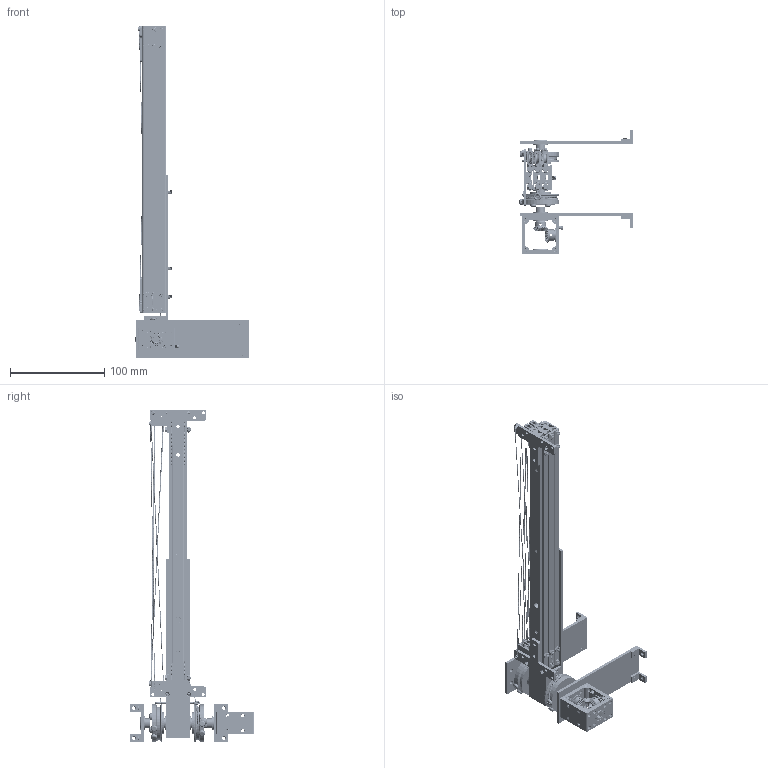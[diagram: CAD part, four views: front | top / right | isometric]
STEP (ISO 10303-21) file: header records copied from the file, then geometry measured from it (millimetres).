
FILE_DESCRIPTION( ('This file contains a STEP AP42 implementation' ,'as created by ZW3D STEP Interface translator.') ,'2;1' );
FILE_NAME( 'Demo1vs1PulleyCascadeRigging_Crane.stp' ,'24 123.1029 0', (''), ('ZWCAD Software Co.'), 'Version 1.0', 'ZW3D to STEP translator', '' );
FILE_SCHEMA(('AUTOMOTIVE_DESIGN { 1 0 10303 214 1 1 1 1 }'));
Length unit declared in the file: millimetre
Products named in the file (41): 0; DemoContinuousRigging_Crane; BL-300C-2M; OuterSlide300C; StopperScrew; BallBearing; PulleyModule; VPulley; NoHeadScrew001; PulleyBracketV4; PulleyModule1; M3; M2; InnerSlide300C; BL-300C-2M1; PulleyModule2; PulleyModule3; BL-300C-2M2; PulleyModule4; PulleyModule5; M4-6-5.5; StringHolder; SlideHolder; M4-8-5.5; SlideTower; OneHoleL_Beam; BL-GearBoxWithGears; M0.7T22BevelGear; 1611-0514-4008-Hex; BL-GearBox3; 1611-0514-0006-BB6; Pulley1; BL-7mmHexAdapter; 8mmSpace1mm; M4Button; 8mmSpacer5mm; M3Waher; M3SelfTapping; EyeBolt; M3Waher(Default)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
Assembly tree (247 placements, depth 4):
  0
  DemoContinuousRigging_Crane
    BL-300C-2M
      OuterSlide300C
      StopperScrew  x8
      BallBearing  x30
      PulleyModule
        VPulley
        NoHeadScrew001
        PulleyBracketV4
      PulleyModule1
        VPulley
        NoHeadScrew001
        PulleyBracketV4
      M3  x8
      M2  x2
      InnerSlide300C
    BL-300C-2M1
      OuterSlide300C
      StopperScrew  x8
      BallBearing  x30
      PulleyModule2
        VPulley
        NoHeadScrew001
        PulleyBracketV4
      PulleyModule3
        VPulley
        NoHeadScrew001
        PulleyBracketV4
      M3  x8
      M2  x2
      InnerSlide300C
    BL-300C-2M2
      OuterSlide300C
      StopperScrew  x8
      BallBearing  x30
      PulleyModule4
        VPulley
        NoHeadScrew001
        PulleyBracketV4
      PulleyModule5
        VPulley
        NoHeadScrew001
        PulleyBracketV4
      M3  x8
      M2  x2
      InnerSlide300C
    M4-6-5.5  x12
    StringHolder  x2
    SlideHolder
    M4-8-5.5  x3
    SlideTower  x2
    OneHoleL_Beam  x4
    BL-GearBoxWithGears
      M0.7T22BevelGear
      1611-0514-4008-Hex  x2
      BL-GearBox3
      1611-0514-0006-BB6
      M4-8-5.5
    1611-0514-4008-Hex  x4
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Bounding box: 120.28 x 131.64 x 352.26 mm (x, y, z)
Volume: 202786.7 mm3; surface area: 214210.4 mm2
Topology: 279 solids, 285 shells, 9082 faces, 24236 edges, 15485 vertices
Faces by surface type: cylinder 3645, bspline 2276, plane 1479, cone 1248, torus 254, sphere 180
Full cylindrical faces by diameter (mm): 2 x153, 2.4 x4, 2.5 x235, 3 x326, 3.05 x12, 3.3 x206, 3.5 x74, 3.6 x193, 4 x176, 5 x7, 6 x12, 6.8 x8, 7 x1, 8 x4, 10 x6, 12.232 x2, 14 x7, 23 x2, 35.02 x2, 40 x4
Entity records: 445015 total; most frequent: CARTESIAN_POINT 363904, ORIENTED_EDGE 21312, EDGE_CURVE 10655, DIRECTION 9173, VERTEX_POINT 6909, B_SPLINE_CURVE_WITH_KNOTS 4554, EDGE_LOOP 4086, FACE_OUTER_BOUND 3817
